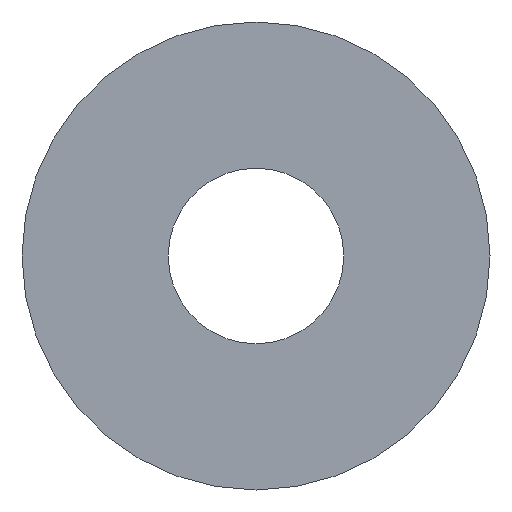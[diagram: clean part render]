
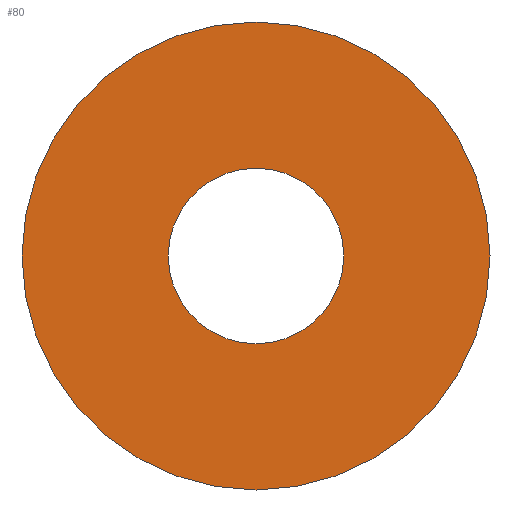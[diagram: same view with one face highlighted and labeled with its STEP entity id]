
A CAD part, left-side view. The second image highlights one B-rep face of the part: STEP entity #80.
In plain terms, the highlighted planar face has unit normal (-1, 0, 0).
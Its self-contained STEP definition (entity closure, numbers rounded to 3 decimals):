
#16=PLANE('',#94);
#23=FACE_BOUND('',#41,.T.);
#29=FACE_OUTER_BOUND('',#40,.T.);
#40=EDGE_LOOP('',(#70));
#41=EDGE_LOOP('',(#71));
#42=CIRCLE('',#84,1.5);
#44=CIRCLE('',#87,4.);
#48=VERTEX_POINT('',#123);
#50=VERTEX_POINT('',#128);
#54=EDGE_CURVE('',#48,#48,#42,.T.);
#56=EDGE_CURVE('',#50,#50,#44,.T.);
#70=ORIENTED_EDGE('',*,*,#56,.F.);
#71=ORIENTED_EDGE('',*,*,#54,.T.);
#80=ADVANCED_FACE('',(#29,#23),#16,.T.);
#84=AXIS2_PLACEMENT_3D('',#124,#99,#100);
#87=AXIS2_PLACEMENT_3D('',#129,#105,#106);
#94=AXIS2_PLACEMENT_3D('',#139,#119,#120);
#99=DIRECTION('center_axis',(1.,0.,0.));
#100=DIRECTION('ref_axis',(0.,1.,0.));
#105=DIRECTION('center_axis',(1.,0.,0.));
#106=DIRECTION('ref_axis',(0.,0.,-1.));
#119=DIRECTION('center_axis',(-1.,0.,0.));
#120=DIRECTION('ref_axis',(0.,0.,1.));
#123=CARTESIAN_POINT('',(0.263,-0.349,0.));
#124=CARTESIAN_POINT('Origin',(0.263,1.151,0.));
#128=CARTESIAN_POINT('',(0.263,5.151,0.));
#129=CARTESIAN_POINT('Origin',(0.263,1.151,0.));
#139=CARTESIAN_POINT('Origin',(0.263,2.651,0.));
